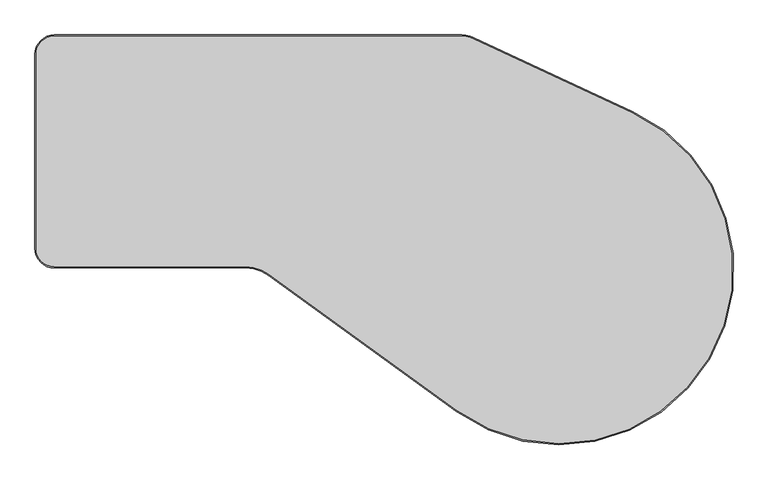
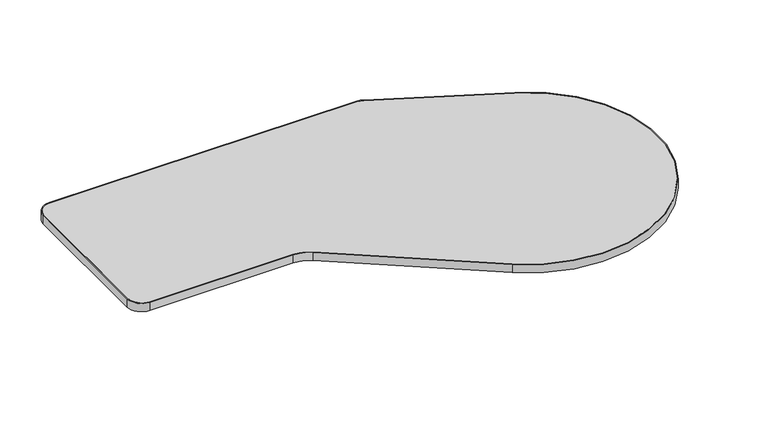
"""IFC4 building model written with IfcOpenShell, lengths in millimetres: furniture geometry, Steelcase - Answer Solution - Universal Table - Bubble Jetty - 3mm Edge : 24D x 72W - Right."""

from ifc_helpers import new_model, si_unit, point, frame, frame_2d, origin, place, context, project, spatial, polyline, circle_curve, trimmed, segment, composite_curve, outline, extrude, source, transform, mapped, element, save


def furniture_15ceefc5(model_context):
    return source(origin(), model_context, "Body", "SweptSolid", [
        extrude(outline(composite_curve([segment(polyline([(1147.5201703, -9.9006822), (1563.5330166, -203.8907555)]), True, "CONTINUOUS"), segment(trimmed(circle_curve(frame_2d((1371.5999711, -615.4922938)), 454.1520895), [point((1563.5330166, -203.8907555))], [point((1105.2662567, -983.3516052))], False, "CARTESIAN"), True, "CONTINUOUS"), segment(polyline([(1105.2662567, -983.3516052), (612.2962707, -626.4365473)]), True, "CONTINUOUS"), segment(trimmed(circle_curve(frame_2d((550.9262558, -711.2006241)), 104.6481125), [point((612.2962707, -626.4365473))], [point((550.9262558, -606.5525116))], True, "CARTESIAN"), True, "CONTINUOUS"), segment(polyline([(550.9262558, -606.5525116), (50.8009689, -606.5525116)]), True, "CONTINUOUS"), segment(trimmed(circle_curve(frame_2d((50.8009689, -558.7996124)), 47.7528992), [point((50.8009689, -606.5525116))], [point((3.0480698, -558.7996124))], False, "CARTESIAN"), True, "CONTINUOUS"), segment(polyline([(3.0480698, -558.7996124), (3.0480698, -50.7992249)]), True, "CONTINUOUS"), segment(trimmed(circle_curve(frame_2d((50.7998062, -50.7992249)), 47.7517365), [point((3.0480698, -50.7992249))], [point((50.7998062, -3.0474884))], False, "CARTESIAN"), True, "CONTINUOUS"), segment(polyline([(50.7998062, -3.0474884), (1116.6074249, -3.0474884)]), True, "CONTINUOUS"), segment(trimmed(circle_curve(frame_2d((1116.6074249, -76.1932453)), 73.1457569), [point((1116.6074249, -3.0474884))], [point((1147.5201703, -9.9006822))], False, "CARTESIAN"), True, "CONTINUOUS")], self_intersect=False)), frame((0.0, 0.0, 668.274), z_axis=(0.0, 0.0, 1.0), x_axis=(1.0, 0.0, 0.0)), (0.0, 0.0, 1.0), 30.0990349),
        extrude(outline(composite_curve([segment(trimmed(circle_curve(frame_2d((50.8, -50.8)), 50.8), [point((0.0, -50.8))], [point((50.8, 0.0))], False, "CARTESIAN"), True, "CONTINUOUS"), segment(polyline([(50.8, 0.0), (1116.6074249, 0.0)]), True, "CONTINUOUS"), segment(trimmed(circle_curve(frame_2d((1116.6074249, -76.2012908)), 76.2012908), [point((1116.6074249, 0.0))], [point((1148.8116538, -7.1395477))], False, "CARTESIAN"), True, "CONTINUOUS"), segment(polyline([(1148.8116538, -7.1395477), (1564.8219269, -201.1295837)]), True, "CONTINUOUS"), segment(trimmed(circle_curve(frame_2d((1371.5996227, -615.4934611)), 457.2004831), [point((1564.8219269, -201.1295837))], [point((1103.4774031, -985.8213658))], False, "CARTESIAN"), True, "CONTINUOUS"), segment(polyline([(1103.4774031, -985.8213658), (610.5086631, -628.9055863)]), True, "CONTINUOUS"), segment(trimmed(circle_curve(frame_2d((550.9262558, -712.622805)), 102.7552235), [point((610.5086631, -628.9055863))], [point((550.9262558, -609.8675814))], True, "CARTESIAN"), True, "CONTINUOUS"), segment(polyline([(550.9262558, -609.8675814), (51.0673877, -609.8675814)]), True, "CONTINUOUS"), segment(trimmed(circle_curve(frame_2d((51.0673877, -558.8001938)), 51.0673877), [point((51.0673877, -609.8675814))], [point((0.0, -558.8001938))], False, "CARTESIAN"), True, "CONTINUOUS"), segment(polyline([(0.0, -558.8001938), (0.0, -50.8)]), True, "CONTINUOUS")], self_intersect=False), holes=[composite_curve([segment(trimmed(circle_curve(frame_2d((50.7998062, -50.7992248)), 47.7517365), [point((50.7998062, -3.0474883))], [point((3.0480698, -50.7992248))], True, "CARTESIAN"), True, "CONTINUOUS"), segment(polyline([(3.0480698, -50.7992248), (3.0480698, -558.7996124)]), True, "CONTINUOUS"), segment(trimmed(circle_curve(frame_2d((50.8009689, -558.7996124)), 47.7528992), [point((3.0480698, -558.7996124))], [point((50.8009689, -606.5525116))], True, "CARTESIAN"), True, "CONTINUOUS"), segment(polyline([(50.8009689, -606.5525116), (550.9262558, -606.5525116)]), True, "CONTINUOUS"), segment(trimmed(circle_curve(frame_2d((550.9262558, -711.2006241)), 104.6481125), [point((550.9262558, -606.5525116))], [point((612.2962707, -626.4365473))], False, "CARTESIAN"), True, "CONTINUOUS"), segment(polyline([(612.2962707, -626.4365473), (1105.2662567, -983.3516052)]), True, "CONTINUOUS"), segment(trimmed(circle_curve(frame_2d((1371.5999711, -615.4922938)), 454.1520895), [point((1105.2662567, -983.3516052))], [point((1563.5330166, -203.8907555))], True, "CARTESIAN"), True, "CONTINUOUS"), segment(polyline([(1563.5330166, -203.8907555), (1147.5201703, -9.9006822)]), True, "CONTINUOUS"), segment(trimmed(circle_curve(frame_2d((1116.6074244, -76.1932464)), 73.145758), [point((1147.5201703, -9.9006822))], [point((1116.6074244, -3.0474883))], True, "CARTESIAN"), True, "CONTINUOUS"), segment(polyline([(1116.6074244, -3.0474883), (50.7998062, -3.0474883)]), True, "CONTINUOUS")], self_intersect=False)]), frame((0.0, 0.0, 668.274), z_axis=(0.0, 0.0, 1.0), x_axis=(1.0, 0.0, 0.0)), (0.0, 0.0, 1.0), 30.0990349),
    ])


if __name__ == "__main__":
    model = new_model("IFC4")
    model_context = context("Model", 3, world=origin())
    ifc_project = project(units=[si_unit("LENGTHUNIT", "METRE", prefix="MILLI")], contexts=[model_context])
    site = spatial("IfcSite", under=ifc_project)
    building = spatial("IfcBuilding", under=site)
    placement = place(None, origin())
    furniture_shape = furniture_15ceefc5(model_context)
    element("IfcFurniture", 1, ObjectType="Steelcase - Answer Solution - Universal Table - Bubble Jetty - 3mm Edge : 24D x 72W - Right", at=placement, inside=building, context=model_context, shape_type="MappedRepresentation", body=[
        mapped(furniture_shape, transform((0.0, 0.0, 0.0), x_axis=(1.0, 0.0, 0.0), y_axis=(0.0, 1.0, 0.0), z_axis=(0.0, 0.0, 1.0))),
    ])
    save(model, "model.ifc")
